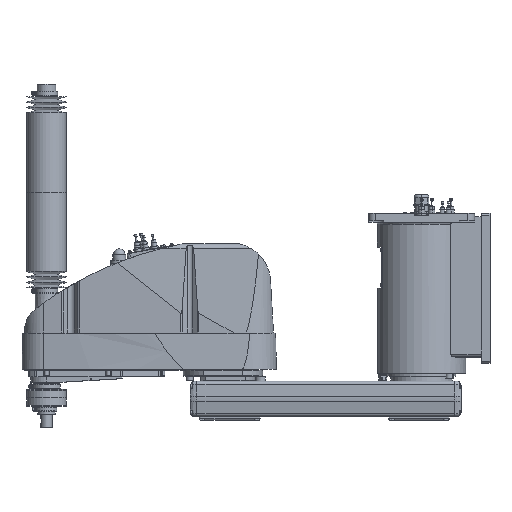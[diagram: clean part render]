
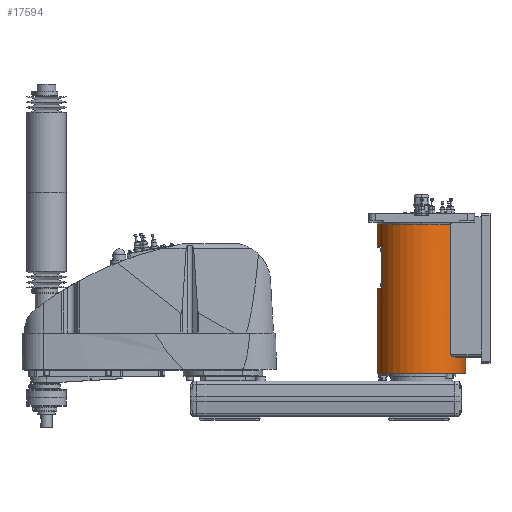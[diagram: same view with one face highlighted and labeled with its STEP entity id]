
A CAD part, top view. The second image highlights one B-rep face of the part: STEP entity #17594.
In plain terms, the highlighted cylindrical face has radius 100 mm (diameter 200 mm), a partial arc.
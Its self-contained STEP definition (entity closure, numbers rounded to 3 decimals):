
#10956 = VERTEX_POINT( '', #32202 );
#11624 = EDGE_CURVE( '', #13204, #19930, #32959, .T. );
#12444 = VERTEX_POINT( '', #33849 );
#13204 = VERTEX_POINT( '', #34733 );
#15890 = VERTEX_POINT( '', #37706 );
#16004 = VERTEX_POINT( '', #37827 );
#16610 = EDGE_CURVE( '', #19930, #22464, #38531, .T. );
#17594 = ADVANCED_FACE( '', ( #39643 ), #39644, .T. );
#17838 = VERTEX_POINT( '', #39912 );
#18012 = VERTEX_POINT( '', #40102 );
#18370 = EDGE_CURVE( '', #10956, #21196, #40500, .T. );
#18412 = VERTEX_POINT( '', #40547 );
#19874 = EDGE_CURVE( '', #22644, #15890, #42180, .T. );
#19930 = VERTEX_POINT( '', #42244 );
#20586 = EDGE_CURVE( '', #23694, #16004, #42965, .T. );
#20714 = VERTEX_POINT( '', #43103 );
#21196 = VERTEX_POINT( '', #43650 );
#22464 = VERTEX_POINT( '', #45066 );
#22644 = VERTEX_POINT( '', #45264 );
#23430 = EDGE_CURVE( '', #21196, #23694, #46137, .T. );
#23680 = EDGE_CURVE( '', #24670, #28156, #46415, .T. );
#23694 = VERTEX_POINT( '', #46432 );
#24320 = EDGE_CURVE( '', #18012, #12444, #47130, .T. );
#24606 = EDGE_CURVE( '', #17838, #22644, #47448, .T. );
#24670 = VERTEX_POINT( '', #47516 );
#26240 = EDGE_CURVE( '', #28156, #10956, #49256, .T. );
#26558 = EDGE_CURVE( '', #16004, #20714, #49629, .T. );
#26948 = EDGE_CURVE( '', #12444, #22464, #50069, .T. );
#28156 = VERTEX_POINT( '', #51427 );
#28274 = EDGE_CURVE( '', #20714, #17838, #51555, .T. );
#29356 = EDGE_CURVE( '', #15890, #18012, #52782, .T. );
#30200 = EDGE_CURVE( '', #13204, #18412, #53728, .T. );
#30318 = EDGE_CURVE( '', #18412, #24670, #53854, .T. );
#32202 = CARTESIAN_POINT( '', ( -100., 218.3, 0. ) );
#32959 = CIRCLE( '', #57176, 100. );
#33849 = CARTESIAN_POINT( '', ( 66.144, 68., 75. ) );
#34733 = CARTESIAN_POINT( '', ( -100., 363., 0. ) );
#37706 = CARTESIAN_POINT( '', ( 75.993, 64., 65. ) );
#37827 = CARTESIAN_POINT( '', ( 100., 64., 0. ) );
#38531 = CIRCLE( '', #65412, 100. );
#39643 = FACE_OUTER_BOUND( '', #66995, .T. );
#39644 = CYLINDRICAL_SURFACE( '', #66996, 100. );
#39912 = CARTESIAN_POINT( '', ( 89.303, 62., 45. ) );
#40102 = CARTESIAN_POINT( '', ( 70.42, 64., 71. ) );
#40500 = LINE( '', #68212, #68213 );
#40547 = CARTESIAN_POINT( '', ( -100., 311.3, 0. ) );
#42180 = LINE( '', #70567, #70568 );
#42244 = CARTESIAN_POINT( '', ( 0., 363., 100. ) );
#42965 = LINE( '', #71650, #71651 );
#43103 = CARTESIAN_POINT( '', ( 89.303, 64., 45. ) );
#43650 = CARTESIAN_POINT( '', ( -100., 25., 0. ) );
#45066 = CARTESIAN_POINT( '', ( 66.144, 363., 75. ) );
#45264 = CARTESIAN_POINT( '', ( 75.993, 62., 65. ) );
#46137 = CIRCLE( '', #76280, 100. );
#46415 = LINE( '', #76662, #76663 );
#46432 = CARTESIAN_POINT( '', ( 100., 25., 0. ) );
#47130 = B_SPLINE_CURVE_WITH_KNOTS( '', 3, ( #77664, #77665, #77666, #77667, #77668, #77669, #77670, #77671, #77672, #77673, #77674, #77675, #77676, #77677, #77678, #77679, #77680, #77681 ), .UNSPECIFIED., .F., .F., ( 4, 2, 2, 2, 2, 2, 2, 2, 4 ), ( 7.241, 8.361, 9.482, 10.602, 11.722, 12.472, 13.222, 13.972, 14.722 ), .UNSPECIFIED. );
#47448 = CIRCLE( '', #78174, 100. );
#47516 = CARTESIAN_POINT( '', ( -88., 311.3, 47.497 ) );
#49256 = CIRCLE( '', #80689, 100. );
#49629 = CIRCLE( '', #81237, 100. );
#50069 = LINE( '', #81828, #81829 );
#51427 = CARTESIAN_POINT( '', ( -88., 218.3, 47.497 ) );
#51555 = LINE( '', #84045, #84046 );
#52782 = CIRCLE( '', #85987, 100. );
#53728 = LINE( '', #87308, #87309 );
#53854 = CIRCLE( '', #87498, 100. );
#57176 = AXIS2_PLACEMENT_3D( '', #91117, #91118, #91119 );
#65412 = AXIS2_PLACEMENT_3D( '', #97561, #97562, #97563 );
#66995 = EDGE_LOOP( '', ( #98915, #98916, #98917, #98918, #98919, #98920, #98921, #98922, #98923, #98924, #98925, #98926, #98927, #98928, #98929, #98930 ) );
#66996 = AXIS2_PLACEMENT_3D( '', #98931, #98932, #98933 );
#68212 = CARTESIAN_POINT( '', ( -100., 194., 0. ) );
#68213 = VECTOR( '', #99893, 1. );
#70567 = CARTESIAN_POINT( '', ( 75.993, 63., 65. ) );
#70568 = VECTOR( '', #101820, 1. );
#71650 = CARTESIAN_POINT( '', ( 100., 194., 0. ) );
#71651 = VECTOR( '', #102670, 1. );
#76280 = AXIS2_PLACEMENT_3D( '', #106341, #106342, #106343 );
#76662 = CARTESIAN_POINT( '', ( -88., 264.8, 47.497 ) );
#76663 = VECTOR( '', #106677, 1. );
#77664 = CARTESIAN_POINT( '', ( 70.42, 64., 71. ) );
#77665 = CARTESIAN_POINT( '', ( 70.155, 64., 71.263 ) );
#77666 = CARTESIAN_POINT( '', ( 69.877, 64.026, 71.535 ) );
#77667 = CARTESIAN_POINT( '', ( 69.316, 64.139, 72.08 ) );
#77668 = CARTESIAN_POINT( '', ( 69.031, 64.224, 72.352 ) );
#77669 = CARTESIAN_POINT( '', ( 68.475, 64.457, 72.879 ) );
#77670 = CARTESIAN_POINT( '', ( 68.203, 64.604, 73.134 ) );
#77671 = CARTESIAN_POINT( '', ( 67.688, 64.954, 73.61 ) );
#77672 = CARTESIAN_POINT( '', ( 67.446, 65.158, 73.831 ) );
#77673 = CARTESIAN_POINT( '', ( 67.082, 65.542, 74.162 ) );
#77674 = CARTESIAN_POINT( '', ( 66.938, 65.716, 74.292 ) );
#77675 = CARTESIAN_POINT( '', ( 66.674, 66.103, 74.529 ) );
#77676 = CARTESIAN_POINT( '', ( 66.555, 66.315, 74.636 ) );
#77677 = CARTESIAN_POINT( '', ( 66.356, 66.766, 74.812 ) );
#77678 = CARTESIAN_POINT( '', ( 66.277, 67.005, 74.882 ) );
#77679 = CARTESIAN_POINT( '', ( 66.171, 67.497, 74.976 ) );
#77680 = CARTESIAN_POINT( '', ( 66.144, 67.75, 75. ) );
#77681 = CARTESIAN_POINT( '', ( 66.144, 68., 75. ) );
#78174 = AXIS2_PLACEMENT_3D( '', #107836, #107837, #107838 );
#80689 = AXIS2_PLACEMENT_3D( '', #109994, #109995, #109996 );
#81237 = AXIS2_PLACEMENT_3D( '', #110501, #110502, #110503 );
#81828 = CARTESIAN_POINT( '', ( 66.144, 215.5, 75. ) );
#81829 = VECTOR( '', #111025, 1. );
#84045 = CARTESIAN_POINT( '', ( 89.303, 63., 45. ) );
#84046 = VECTOR( '', #112705, 1. );
#85987 = AXIS2_PLACEMENT_3D( '', #114253, #114254, #114255 );
#87308 = CARTESIAN_POINT( '', ( -100., 194., 0. ) );
#87309 = VECTOR( '', #115358, 1. );
#87498 = AXIS2_PLACEMENT_3D( '', #115467, #115468, #115469 );
#91117 = CARTESIAN_POINT( '', ( 0., 363., 0. ) );
#91118 = DIRECTION( '', ( 0., 1., 0. ) );
#91119 = DIRECTION( '', ( 1., 0., 0. ) );
#97561 = CARTESIAN_POINT( '', ( 0., 363., 0. ) );
#97562 = DIRECTION( '', ( 0., 1., 0. ) );
#97563 = DIRECTION( '', ( 1., 0., 0. ) );
#98915 = ORIENTED_EDGE( '', *, *, #20586, .T. );
#98916 = ORIENTED_EDGE( '', *, *, #26558, .T. );
#98917 = ORIENTED_EDGE( '', *, *, #28274, .T. );
#98918 = ORIENTED_EDGE( '', *, *, #24606, .T. );
#98919 = ORIENTED_EDGE( '', *, *, #19874, .T. );
#98920 = ORIENTED_EDGE( '', *, *, #29356, .T. );
#98921 = ORIENTED_EDGE( '', *, *, #24320, .T. );
#98922 = ORIENTED_EDGE( '', *, *, #26948, .T. );
#98923 = ORIENTED_EDGE( '', *, *, #16610, .F. );
#98924 = ORIENTED_EDGE( '', *, *, #11624, .F. );
#98925 = ORIENTED_EDGE( '', *, *, #30200, .T. );
#98926 = ORIENTED_EDGE( '', *, *, #30318, .T. );
#98927 = ORIENTED_EDGE( '', *, *, #23680, .T. );
#98928 = ORIENTED_EDGE( '', *, *, #26240, .T. );
#98929 = ORIENTED_EDGE( '', *, *, #18370, .T. );
#98930 = ORIENTED_EDGE( '', *, *, #23430, .T. );
#98931 = CARTESIAN_POINT( '', ( 0., 194., 0. ) );
#98932 = DIRECTION( '', ( 0., -1., 0. ) );
#98933 = DIRECTION( '', ( 1., 0., 0. ) );
#99893 = DIRECTION( '', ( 0., -1., 0. ) );
#101820 = DIRECTION( '', ( 0., 1., 0. ) );
#102670 = DIRECTION( '', ( 0., 1., 0. ) );
#106341 = CARTESIAN_POINT( '', ( 0., 25., 0. ) );
#106342 = DIRECTION( '', ( 0., 1., 0. ) );
#106343 = DIRECTION( '', ( 1., 0., 0. ) );
#106677 = DIRECTION( '', ( 0., -1., 0. ) );
#107836 = CARTESIAN_POINT( '', ( 0., 62., 0. ) );
#107837 = DIRECTION( '', ( 0., -1., 0. ) );
#107838 = DIRECTION( '', ( 1., 0., 0. ) );
#109994 = CARTESIAN_POINT( '', ( 0., 218.3, 0. ) );
#109995 = DIRECTION( '', ( 0., -1., 0. ) );
#109996 = DIRECTION( '', ( 1., 0., 0. ) );
#110501 = CARTESIAN_POINT( '', ( 0., 64., 0. ) );
#110502 = DIRECTION( '', ( 0., -1., 0. ) );
#110503 = DIRECTION( '', ( 1., 0., 0. ) );
#111025 = DIRECTION( '', ( 0., 1., 0. ) );
#112705 = DIRECTION( '', ( 0., -1., 0. ) );
#114253 = CARTESIAN_POINT( '', ( 0., 64., 0. ) );
#114254 = DIRECTION( '', ( 0., -1., 0. ) );
#114255 = DIRECTION( '', ( 1., 0., 0. ) );
#115358 = DIRECTION( '', ( 0., -1., 0. ) );
#115467 = CARTESIAN_POINT( '', ( 0., 311.3, 0. ) );
#115468 = DIRECTION( '', ( 0., 1., 0. ) );
#115469 = DIRECTION( '', ( 1., 0., 0. ) );
